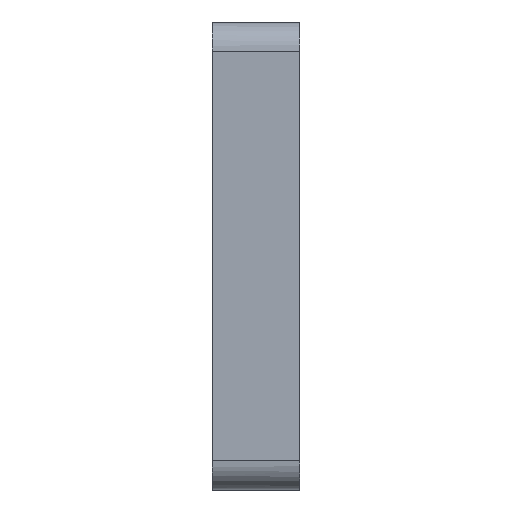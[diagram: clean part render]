
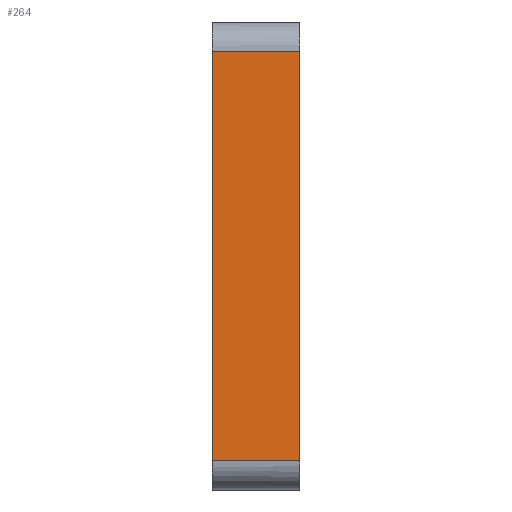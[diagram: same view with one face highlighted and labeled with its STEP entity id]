
A CAD part, left-side view. The second image highlights one B-rep face of the part: STEP entity #264.
In plain terms, the highlighted planar face has unit normal (-1, 0, 0).
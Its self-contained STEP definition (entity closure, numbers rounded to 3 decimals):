
#23=PLANE('',#295);
#44=FACE_OUTER_BOUND('',#58,.T.);
#58=EDGE_LOOP('',(#197,#198,#199,#200));
#79=LINE('',#421,#99);
#81=LINE('',#442,#101);
#82=LINE('',#444,#102);
#83=LINE('',#445,#103);
#99=VECTOR('',#323,10.);
#101=VECTOR('',#327,10.);
#102=VECTOR('',#328,10.);
#103=VECTOR('',#329,10.);
#130=VERTEX_POINT('',#403);
#131=VERTEX_POINT('',#420);
#133=VERTEX_POINT('',#441);
#134=VERTEX_POINT('',#443);
#156=EDGE_CURVE('',#130,#131,#79,.T.);
#159=EDGE_CURVE('',#133,#130,#81,.T.);
#160=EDGE_CURVE('',#133,#134,#82,.T.);
#161=EDGE_CURVE('',#134,#131,#83,.T.);
#197=ORIENTED_EDGE('',*,*,#159,.F.);
#198=ORIENTED_EDGE('',*,*,#160,.T.);
#199=ORIENTED_EDGE('',*,*,#161,.T.);
#200=ORIENTED_EDGE('',*,*,#156,.F.);
#264=ADVANCED_FACE('',(#44),#23,.F.);
#295=AXIS2_PLACEMENT_3D('',#440,#325,#326);
#323=DIRECTION('',(0.,1.,0.));
#325=DIRECTION('center_axis',(1.,0.,0.));
#326=DIRECTION('ref_axis',(0.,0.,-1.));
#327=DIRECTION('',(0.,0.,-1.));
#328=DIRECTION('',(0.,1.,0.));
#329=DIRECTION('',(0.,0.,-1.));
#403=CARTESIAN_POINT('',(-143.,-75.4,65.));
#420=CARTESIAN_POINT('',(-143.,-72.4,65.));
#421=CARTESIAN_POINT('',(-143.,-75.4,65.));
#440=CARTESIAN_POINT('Origin',(-143.,-75.4,79.));
#441=CARTESIAN_POINT('',(-143.,-75.4,79.));
#442=CARTESIAN_POINT('',(-143.,-75.4,79.));
#443=CARTESIAN_POINT('',(-143.,-72.4,79.));
#444=CARTESIAN_POINT('',(-143.,-75.4,79.));
#445=CARTESIAN_POINT('',(-143.,-72.4,79.));
